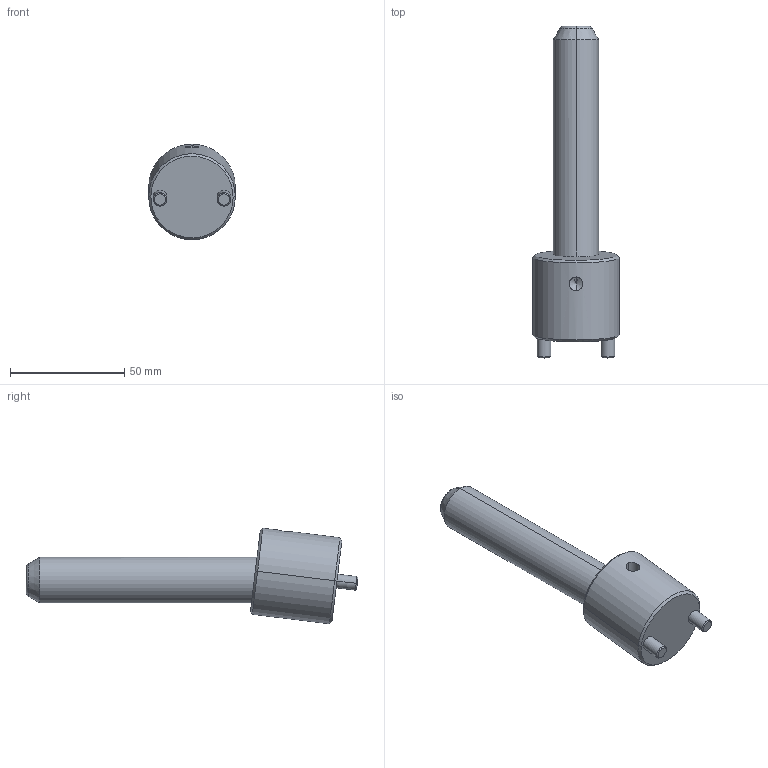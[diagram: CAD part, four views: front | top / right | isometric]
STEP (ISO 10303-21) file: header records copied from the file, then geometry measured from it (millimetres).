
FILE_DESCRIPTION(('CATIA V5 STEP Exchange'),'2;1');
FILE_NAME('C:\Users\Raffaele\Desktop\3D BOLEX\3D FILES CF BOLEX\19-INCLINED ASSEMBLY REF_CI\CI0720100.stp','2019-06-24T07:08:17+00:00',('none'),('none'),'CATIA Version 5 Release 20 GA (IN-10)','CATIA V5 STEP AP203','none');
FILE_SCHEMA(('CONFIG_CONTROL_DESIGN'));
Length unit declared in the file: millimetre
Products named in the file (1): CI0720100
Assembly tree (2 placements, depth 2):
  CI0720100
    #58
    #572
Bounding box: 38 x 145.46 x 41.86 mm (x, y, z)
Volume: 71495.6 mm3; surface area: 17466.6 mm2
Topology: 2 solids, 2 shells, 39 faces, 82 edges, 47 vertices
Faces by surface type: cone 14, cylinder 14, plane 7, torus 4
Entity records: 1506 total; most frequent: CARTESIAN_POINT 649, ORIENTED_EDGE 160, DIRECTION 144, EDGE_CURVE 80, AXIS2_PLACEMENT_3D 71, VERTEX_POINT 47, EDGE_LOOP 43, ADVANCED_FACE 39
